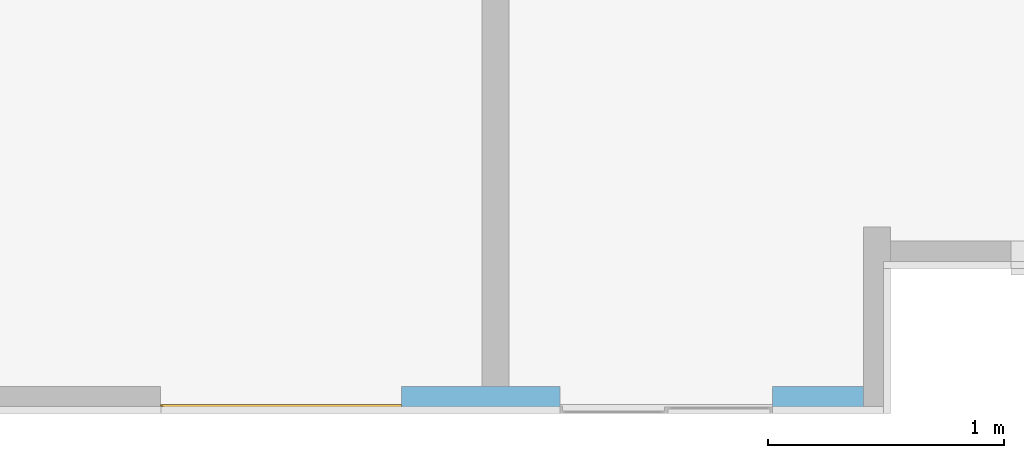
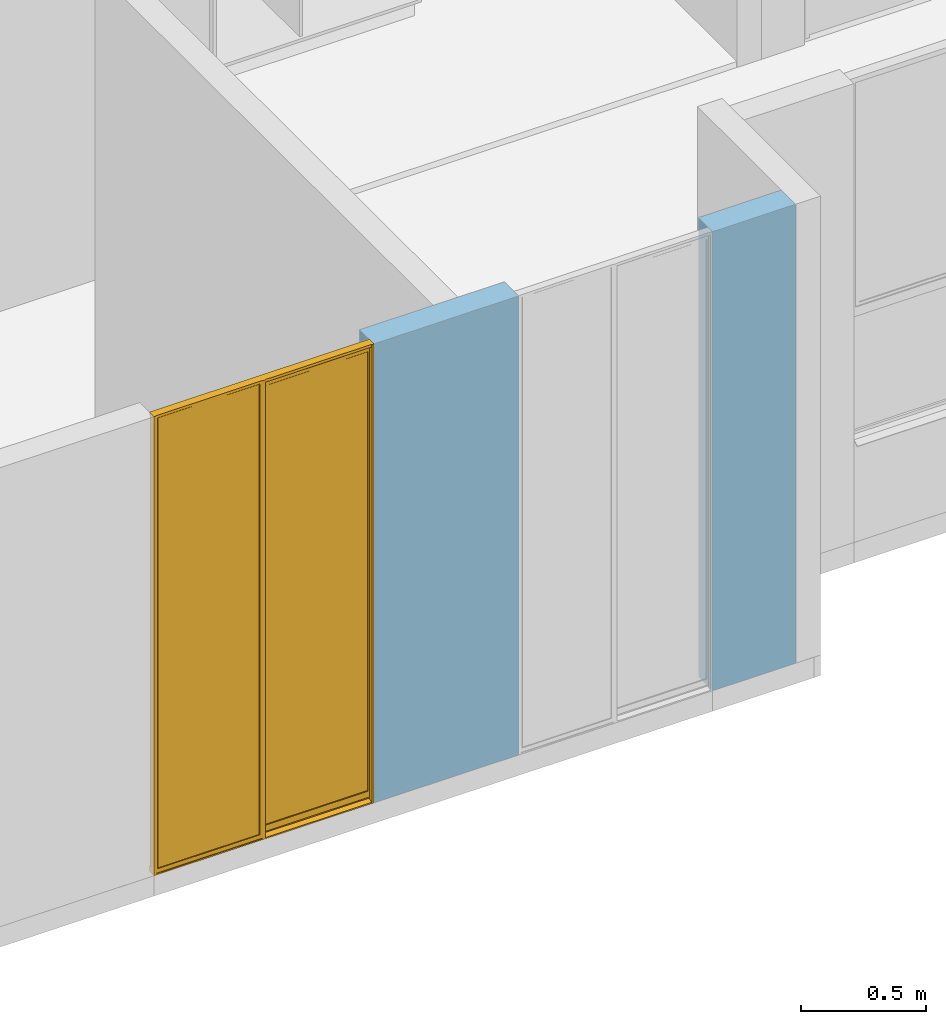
# One storey, part 5 of 47: 1 window, 2 openings, plus 1 element that does not belong to this part.
"""IFC4 building model written with IfcOpenShell, lengths in metres."""

from ifc_helpers import new_model, entity, si_unit, converted_unit, derived_unit, direction, frame, origin, place, context, subcontext, project, spatial, indexed_curve, outline, extrude, polygons, source, transform, mapped, material, constituent, constituent_set, type_object, type_shapes, element, fill, save


model = new_model("IFC4")

# Units and contexts
model_context = context("Model", 3, precision=1e-05, world=origin(), true_north=direction((6.123031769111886e-17, 1.0)))
body_context = subcontext(model_context, "Body", "Model", "MODEL_VIEW")
ifc_project = project(units=[si_unit("LENGTHUNIT", "METRE"), si_unit("AREAUNIT", "SQUARE_METRE"), si_unit("VOLUMEUNIT", "CUBIC_METRE"), converted_unit("PLANEANGLEUNIT", "DEGREE", entity("IfcRatioMeasure", 0.017453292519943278), si_unit("PLANEANGLEUNIT", "RADIAN"), dimensions=[0, 0, 0, 0, 0, 0, 0]), si_unit("MASSUNIT", "GRAM", prefix="KILO"), derived_unit("MASSDENSITYUNIT", [(si_unit("MASSUNIT", "GRAM", prefix="KILO"), 1), (si_unit("LENGTHUNIT", "METRE"), -3)]), derived_unit("IONCONCENTRATIONUNIT", [(si_unit("MASSUNIT", "GRAM", prefix="KILO"), 1), (si_unit("LENGTHUNIT", "METRE"), -3)]), derived_unit("MOMENTOFINERTIAUNIT", [(si_unit("LENGTHUNIT", "METRE"), 4)]), si_unit("TIMEUNIT", "SECOND"), si_unit("FREQUENCYUNIT", "HERTZ"), si_unit("THERMODYNAMICTEMPERATUREUNIT", "DEGREE_CELSIUS"), derived_unit("THERMALTRANSMITTANCEUNIT", [(si_unit("MASSUNIT", "GRAM", prefix="KILO"), 1), (si_unit("THERMODYNAMICTEMPERATUREUNIT", "KELVIN"), -1), (si_unit("TIMEUNIT", "SECOND"), -3)]), derived_unit("THERMALCONDUCTANCEUNIT", [(si_unit("MASSUNIT", "GRAM", prefix="KILO"), 1), (si_unit("THERMODYNAMICTEMPERATUREUNIT", "KELVIN"), -1), (si_unit("TIMEUNIT", "SECOND"), -3), (si_unit("LENGTHUNIT", "METRE"), 1)]), derived_unit("VOLUMETRICFLOWRATEUNIT", [(si_unit("LENGTHUNIT", "METRE"), 3), (si_unit("TIMEUNIT", "SECOND"), -1)]), derived_unit("MASSFLOWRATEUNIT", [(si_unit("MASSUNIT", "GRAM", prefix="KILO"), 1), (si_unit("TIMEUNIT", "SECOND"), -1)]), derived_unit("ROTATIONALFREQUENCYUNIT", [(si_unit("TIMEUNIT", "SECOND"), -1)]), si_unit("ELECTRICCURRENTUNIT", "AMPERE"), si_unit("ELECTRICVOLTAGEUNIT", "VOLT"), si_unit("POWERUNIT", "WATT"), si_unit("FORCEUNIT", "NEWTON", prefix="KILO"), si_unit("ILLUMINANCEUNIT", "LUX"), si_unit("LUMINOUSFLUXUNIT", "LUMEN"), si_unit("LUMINOUSINTENSITYUNIT", "CANDELA"), derived_unit("USERDEFINED", [(si_unit("MASSUNIT", "GRAM", prefix="KILO"), -1), (si_unit("LENGTHUNIT", "METRE"), -2), (si_unit("TIMEUNIT", "SECOND"), 3), (si_unit("LUMINOUSFLUXUNIT", "LUMEN"), 1)]), derived_unit("USERDEFINED", [(si_unit("MASSUNIT", "GRAM", prefix="KILO"), 1), (si_unit("TIMEUNIT", "SECOND"), -3), (si_unit("LENGTHUNIT", "METRE"), 3), (si_unit("ELECTRICCURRENTUNIT", "AMPERE"), -2)]), derived_unit("SOUNDPOWERUNIT", [(si_unit("MASSUNIT", "GRAM", prefix="KILO"), 1), (si_unit("TIMEUNIT", "SECOND"), -3), (si_unit("LENGTHUNIT", "METRE"), 2)]), derived_unit("SOUNDPRESSUREUNIT", [(si_unit("MASSUNIT", "GRAM", prefix="KILO"), 1), (si_unit("LENGTHUNIT", "METRE"), -1), (si_unit("TIMEUNIT", "SECOND"), -2)]), derived_unit("LINEARVELOCITYUNIT", [(si_unit("LENGTHUNIT", "METRE"), 1), (si_unit("TIMEUNIT", "SECOND"), -1)]), si_unit("PRESSUREUNIT", "PASCAL"), derived_unit("USERDEFINED", [(si_unit("MASSUNIT", "GRAM", prefix="KILO"), 1), (si_unit("LENGTHUNIT", "METRE"), -2), (si_unit("TIMEUNIT", "SECOND"), -2)]), derived_unit("LINEARFORCEUNIT", [(si_unit("MASSUNIT", "GRAM", prefix="KILO"), 1), (si_unit("TIMEUNIT", "SECOND"), -2)]), derived_unit("PLANARFORCEUNIT", [(si_unit("MASSUNIT", "GRAM", prefix="KILO"), 1), (si_unit("LENGTHUNIT", "METRE"), -1), (si_unit("TIMEUNIT", "SECOND"), -2)]), derived_unit("SPECIFICHEATCAPACITYUNIT", [(si_unit("THERMODYNAMICTEMPERATUREUNIT", "KELVIN"), -1), (si_unit("LENGTHUNIT", "METRE"), 2), (si_unit("TIMEUNIT", "SECOND"), -2)]), derived_unit("HEATINGVALUEUNIT", [(si_unit("LENGTHUNIT", "METRE"), 2), (si_unit("TIMEUNIT", "SECOND"), -2)]), derived_unit("VAPORPERMEABILITYUNIT", [(si_unit("LENGTHUNIT", "METRE"), -1), (si_unit("TIMEUNIT", "SECOND"), 1)]), derived_unit("DYNAMICVISCOSITYUNIT", [(si_unit("MASSUNIT", "GRAM", prefix="KILO"), 1), (si_unit("TIMEUNIT", "SECOND"), -1), (si_unit("LENGTHUNIT", "METRE"), -1)]), derived_unit("THERMALEXPANSIONCOEFFICIENTUNIT", [(si_unit("THERMODYNAMICTEMPERATUREUNIT", "KELVIN"), -1)]), derived_unit("MODULUSOFELASTICITYUNIT", [(si_unit("MASSUNIT", "GRAM", prefix="KILO"), 1), (si_unit("LENGTHUNIT", "METRE"), -1), (si_unit("TIMEUNIT", "SECOND"), -2)]), derived_unit("ISOTHERMALMOISTURECAPACITYUNIT", [(si_unit("LENGTHUNIT", "METRE"), 3), (si_unit("MASSUNIT", "GRAM", prefix="KILO"), -1)]), derived_unit("MOISTUREDIFFUSIVITYUNIT", [(si_unit("TIMEUNIT", "SECOND"), -1), (si_unit("LENGTHUNIT", "METRE"), 2)])], contexts=[model_context])

# Site, building, storey
site_placement = place(None, origin())
site = spatial("IfcSite", under=ifc_project, at=site_placement, Name="Default", CompositionType="ELEMENT")
building_placement = place(site_placement, origin())
building = spatial("IfcBuilding", under=site, at=building_placement, CompositionType="ELEMENT")
storey_placement = place(building_placement, frame((0.0, 0.0, 11.750000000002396)))
storey = spatial("IfcBuildingStorey", under=building, at=storey_placement, Name="Nivel 6", CompositionType="ELEMENT", Elevation=11.750000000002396)

# Wall, openings, window
ifc_material_1 = material(Name="Ladrillo claro (Aire)", Category="Materials")
wall_type = type_object("IfcWallType", Name="Basic Wall:B2010 - 0.115m - Muro exterior en mampostería - Ladrillo", PredefinedType="STANDARD")
wall_placement = place(storey_placement, frame((6.067499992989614, -12.812500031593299, 0.0), z_axis=(0.0, 0.0, 1.0), x_axis=(-1.0, 0.0, 0.0)))
wall = element("IfcWall", 1, at=wall_placement, inside=storey, type_object=wall_type, material=ifc_material_1, Name="Basic Wall:B2010 - 0.115m - Muro exterior en mampostería - Ladrillo", ObjectType="Basic Wall:B2010 - 0.115m - Muro exterior en mampostería - Ladrillo", PredefinedType="NOTDEFINED", context=body_context, shape_type="Tessellation", body=[
    polygons([(6.500625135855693e-16, -0.057499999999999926, 2.250000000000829), (6.500625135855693e-16, -0.057499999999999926, -2.1657342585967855e-15), (0.38500000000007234, -0.057499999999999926, -2.1657342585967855e-15), (0.38500000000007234, -0.057499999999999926, 2.250000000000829), (2.177286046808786e-15, 0.057499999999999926, -2.1657342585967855e-15), (0.38500000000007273, 0.057499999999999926, -2.1657342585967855e-15), (0.38500000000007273, 0.057499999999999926, 2.250000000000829), (2.177286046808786e-15, 0.057499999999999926, 2.250000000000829)], [[[1, 2, 3, 4]], [[2, 5, 6, 3]], [[4, 3, 6, 7]], [[2, 1, 8, 5]], [[8, 1, 4, 7]], [[5, 8, 7, 6]]], closed=True),
    polygons([(1.9557999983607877, 0.057499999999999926, 2.250000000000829), (1.9557999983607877, 0.057499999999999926, -2.1657342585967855e-15), (1.2850000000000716, 0.057499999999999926, -2.1657342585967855e-15), (1.2850000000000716, 0.057499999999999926, 2.250000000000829), (1.9557999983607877, -0.057499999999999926, 2.250000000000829), (1.2850000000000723, -0.057499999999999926, 2.250000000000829), (1.4999999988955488, -0.057499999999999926, 2.2500000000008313), (1.6149999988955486, -0.057499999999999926, 2.2500000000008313), (1.9557999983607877, -0.057499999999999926, -2.1657342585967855e-15), (1.2850000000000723, -0.057499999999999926, -2.1657342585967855e-15), (1.6149999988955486, -0.057499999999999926, -2.1657342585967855e-15), (1.4999999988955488, -0.057499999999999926, -2.1657342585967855e-15)], [[[1, 2, 3, 4]], [[5, 1, 4, 6, 7, 8]], [[5, 9, 2, 1]], [[10, 6, 4, 3]], [[2, 9, 11, 12, 10, 3]], [[9, 5, 8, 7, 6, 10, 12, 11]]], closed=True),
])
opening_1_placement = place(wall_placement, frame((2.975799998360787, 0.05749999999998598, 0.0)))
opening_1 = element("IfcOpeningElement", 2, at=opening_1_placement, cuts=wall, Name="B2020 - Ventana corrediza 2C - Aluminio + Vidrio:B2020 - 1.02m x 2.25m - Ventana corrediza 2C - Aluminio + Vidrio:1", PredefinedType="OPENING", context=body_context, shape_type="SweptSolid", body=[
    extrude(outline(indexed_curve([(0.0, -7.394753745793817e-30), (2.2499999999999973, -7.394753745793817e-30), (2.249999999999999, 1.0199999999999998), (0.0, 1.0199999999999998), (0.0, -7.394753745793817e-30)], self_intersect=False)), frame((0.0, 0.0, 0.0), z_axis=(0.0, -1.0, 0.0), x_axis=(0.0, 0.0, 1.0)), (0.0, 0.0, 1.0), 0.115),
])
opening_2_placement = place(wall_placement, frame((1.2850000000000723, 0.05749999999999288, 0.0)))
element("IfcOpeningElement", 3, at=opening_2_placement, cuts=wall, Name="B2020 - Ventana corrediza 2C - Aluminio + Vidrio:B2020 - 0.90m x 2.25m - Ventana corrediza 2C - Aluminio + Vidrio:1", PredefinedType="OPENING", context=body_context, shape_type="SweptSolid", body=[
    extrude(outline(indexed_curve([(0.0, 1.353583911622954e-16), (2.2499999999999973, 1.353583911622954e-16), (2.249999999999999, 0.9), (0.0, 0.9), (0.0, 1.353583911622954e-16)], self_intersect=False)), frame((0.0, 0.0, 0.0), z_axis=(0.0, -1.0, 0.0), x_axis=(0.0, 0.0, 1.0)), (0.0, 0.0, 1.0), 0.115),
])
ifc_material_2 = material(Name="Vidrio", Category="Materials")
ifc_constituent_1 = constituent(ifc_material_2, Name="Vidrio", Category="Materials")
ifc_material_3 = material(Name="<Unnamed>")
ifc_constituent_2 = constituent(ifc_material_3, Name="<Unnamed>")
ifc_constituent_set_1 = constituent_set(constituents=[ifc_constituent_1, ifc_constituent_2])
ifc_constituent_3 = constituent(ifc_material_2, Name="Vidrio", Category="Materials")
ifc_constituent_4 = constituent(ifc_material_3, Name="<Unnamed>")
ifc_constituent_set_2 = constituent_set(constituents=[ifc_constituent_3, ifc_constituent_4])
window_type = type_object("IfcWindowType", Name="B2020 - Ventana corrediza 2C - Aluminio + Vidrio:B2020 - 1.02m x 2.25m - Ventana corrediza 2C - Aluminio + Vidrio", PartitioningType="NOTDEFINED", PredefinedType="WINDOW", material=ifc_constituent_set_2)
shared_shape = source(origin(), body_context, "Body", "Tessellation", [
    polygons([(0.5301871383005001, 0.11311505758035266, 0.028641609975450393), (1.0000323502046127, 0.11311505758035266, 0.028641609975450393), (1.0000323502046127, 0.10801372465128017, 0.028641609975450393), (0.5301871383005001, 0.10801372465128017, 0.028641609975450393), (0.5301871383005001, 0.11311505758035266, 2.2347073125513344), (0.5301871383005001, 0.10801372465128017, 2.2347073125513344), (1.0000323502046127, 0.10801372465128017, 2.2347073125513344), (1.0000323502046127, 0.11311505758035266, 2.2347073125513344)], [[[1, 2, 3, 4]], [[5, 1, 4, 6]], [[6, 4, 3, 7]], [[7, 3, 2, 8]], [[8, 2, 1, 5]], [[5, 6, 7, 8]]], closed=True),
    polygons([(0.018846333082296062, 0.0962952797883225, 0.054189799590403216), (0.48827105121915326, 0.0962952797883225, 0.054189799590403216), (0.48827105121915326, 0.0919992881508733, 0.054189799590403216), (0.018846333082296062, 0.0919992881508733, 0.054189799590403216), (0.018846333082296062, 0.0962952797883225, 2.2043993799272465), (0.018846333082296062, 0.0919992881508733, 2.2043993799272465), (0.48827105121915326, 0.0919992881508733, 2.2043993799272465), (0.48827105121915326, 0.0962952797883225, 2.2043993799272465)], [[[1, 2, 3, 4]], [[5, 1, 4, 6]], [[6, 4, 3, 7]], [[7, 3, 2, 8]], [[8, 2, 1, 5]], [[5, 6, 7, 8]]], closed=True),
    polygons([(1.6039969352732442e-14, 0.08248628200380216, 0.020380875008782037), (1.6039969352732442e-14, 0.07981389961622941, 0.020380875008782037), (1.6039969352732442e-14, 0.07981389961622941, 0.025674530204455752), (1.6039969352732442e-14, 0.08106389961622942, 0.025674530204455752), (1.6039969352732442e-14, 0.08106389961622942, 0.02163087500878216), (1.6039969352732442e-14, 0.08373628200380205, 0.02163087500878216), (1.6039969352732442e-14, 0.08373628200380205, 0.017447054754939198), (1.6039969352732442e-14, 0.08932238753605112, 0.017447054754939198), (1.6039969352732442e-14, 0.08932238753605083, 2.24863686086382), (1.6039969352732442e-14, 0.0810593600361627, 2.24863686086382), (1.6039969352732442e-14, 0.0810593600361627, 2.2365872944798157), (1.6039969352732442e-14, 0.07969622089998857, 2.2365872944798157), (1.5972290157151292e-14, 0.07969622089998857, 2.2499999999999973), (1.6039969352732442e-14, 0.11748628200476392, 2.2499999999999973), (1.6039969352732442e-14, 0.11748628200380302, -2.5718094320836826e-15), (1.6039969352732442e-14, 0.08248628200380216, -2.5718094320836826e-15), (1.0200000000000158, 0.08248628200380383, 0.020380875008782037), (1.0200000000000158, 0.08248628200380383, -2.5718094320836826e-15), (1.0200000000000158, 0.11748628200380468, -2.5718094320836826e-15), (0.5166454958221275, 0.11748628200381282, 2.2499999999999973), (0.5166454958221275, 0.11748628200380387, 0.006176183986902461), (1.0100000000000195, 0.11748628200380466, 0.006176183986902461), (1.0100000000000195, 0.11748628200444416, 2.2499999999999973), (1.0200000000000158, 0.11748628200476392, 2.2499999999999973), (0.009897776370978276, 0.11748628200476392, 2.2499999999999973), (0.009897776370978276, 0.11748628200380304, 0.006176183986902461), (0.5033545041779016, 0.11748628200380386, 0.006176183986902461), (0.5033545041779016, 0.11748628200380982, 2.2499999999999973), (0.016298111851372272, 0.08932238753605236, 2.2069861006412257), (0.5033545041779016, 0.08932238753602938, 2.2069861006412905), (0.5033545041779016, 0.08932238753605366, 2.2043993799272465), (0.490819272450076, 0.08932238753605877, 2.2043993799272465), (0.4908192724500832, 0.08932238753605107, 0.0519155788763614), (0.01629811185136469, 0.0893223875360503, 0.0519155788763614), (0.01629811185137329, 0.08932238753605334, 2.237270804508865), (0.01629811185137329, 0.08932238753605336, 2.24863686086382), (0.003762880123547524, 0.08932238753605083, 0.017447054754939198), (0.003762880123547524, 0.08932238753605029, 0.02163087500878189), (0.5033545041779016, 0.08932238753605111, 0.021630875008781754), (0.5033545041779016, 0.08932238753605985, 0.017447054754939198), (0.5180471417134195, 0.08932238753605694, 0.017447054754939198), (0.5180471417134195, 0.08932238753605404, 2.24863686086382), (0.5033545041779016, 0.08932238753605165, 2.24863686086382), (0.5033545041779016, 0.0893223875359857, 2.237270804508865), (1.0200000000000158, 0.0837362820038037, 0.017447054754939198), (1.0200000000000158, 0.08548628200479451, 0.017447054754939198), (1.0100000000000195, 0.08548628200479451, 0.017447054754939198), (1.0100000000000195, 0.09284764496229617, 0.017447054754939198), (0.5180471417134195, 0.09284764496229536, 0.017447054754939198), (0.5033545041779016, 0.09284764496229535, 0.017447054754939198), (0.003762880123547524, 0.09284764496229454, 0.017447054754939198), (1.0200000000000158, 0.0837362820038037, 0.02163087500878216), (1.0200000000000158, 0.08106389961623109, 0.02163087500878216), (1.0200000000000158, 0.08106389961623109, 0.025674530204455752), (1.0200000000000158, 0.07981389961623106, 0.025674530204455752), (1.0200000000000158, 0.07981389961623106, 0.020380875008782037), (0.018842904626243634, 0.09629339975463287, 0.054191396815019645), (0.4882772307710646, 0.09629080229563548, 0.054191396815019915), (0.4908192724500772, 0.09897218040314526, 0.051915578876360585), (0.016298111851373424, 0.0989721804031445, 0.051915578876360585), (0.016298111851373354, 0.09897218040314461, 2.237270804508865), (0.016298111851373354, 0.09897218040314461, 2.24863686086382), (0.01884633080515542, 0.0962732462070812, 2.24863686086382), (0.01884631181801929, 0.0962733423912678, 2.237270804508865), (0.490819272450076, 0.09897218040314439, 2.2043993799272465), (0.5033545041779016, 0.09897218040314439, 2.2043993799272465), (0.5033545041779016, 0.0989721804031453, 0.02163087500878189), (0.009897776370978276, 0.09897218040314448, 0.021630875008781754), (0.009897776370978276, 0.09897218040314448, 2.24863686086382), (0.5033545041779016, 0.0989721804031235, 2.237270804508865), (0.5033545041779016, 0.09897218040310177, 2.2069861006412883), (0.016298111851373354, 0.09897218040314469, 2.206986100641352), (0.48827105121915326, 0.09628607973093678, 2.2043993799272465), (0.018840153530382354, 0.09200376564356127, 0.05419139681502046), (0.488274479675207, 0.0920011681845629, 0.05419139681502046), (0.018846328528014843, 0.09202132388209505, 2.24863686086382), (0.018846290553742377, 0.09202124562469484, 2.237270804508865), (0.48827105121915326, 0.09200839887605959, 2.20439928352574), (0.5180471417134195, 0.09284764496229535, 0.011279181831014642), (0.5180471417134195, 0.0961232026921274, 0.010600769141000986), (0.5180471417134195, 0.09612320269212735, 0.014402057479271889), (0.5180471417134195, 0.10582811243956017, 0.014402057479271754), (0.5180471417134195, 0.1058281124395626, 2.24863686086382), (0.5033545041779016, 0.0919994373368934, 2.2043993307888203), (0.003762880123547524, 0.09897218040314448, 0.021630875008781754), (0.003762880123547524, 0.09284764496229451, 0.011279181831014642), (0.003762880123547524, 0.0989721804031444, 0.010010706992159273), (0.009897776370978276, 0.0989721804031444, 0.010010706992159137), (0.009897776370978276, 0.1153006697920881, 2.2499999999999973), (0.009897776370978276, 0.11530066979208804, 2.2369062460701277), (0.009897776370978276, 0.11310173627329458, 2.2347073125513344), (0.009897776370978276, 0.10802704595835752, 2.2347073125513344), (0.009897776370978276, 0.10582811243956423, 2.2369062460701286), (0.009897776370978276, 0.10582811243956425, 2.24863686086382), (1.0200000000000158, 0.07969622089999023, 2.2499999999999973), (1.0200000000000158, 0.07969622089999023, 2.2365872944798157), (1.0200000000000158, 0.08105936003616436, 2.2365872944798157), (1.0200000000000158, 0.08105936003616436, 2.24863686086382), (1.0200000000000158, 0.08548628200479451, 2.24863686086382), (1.0100000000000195, 0.08548628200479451, 2.24863686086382), (1.0100000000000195, 0.09284764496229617, 0.011279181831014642), (1.0100000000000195, 0.10582811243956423, 2.24863686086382), (1.0100000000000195, 0.10582811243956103, 0.014402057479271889), (1.0100000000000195, 0.09612320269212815, 0.014402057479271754), (1.0100000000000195, 0.09612320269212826, 0.010600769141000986), (0.5166454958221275, 0.11530066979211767, 0.006628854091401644), (0.5166454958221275, 0.11530066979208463, 2.2499999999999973), (1.0100000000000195, 0.11530066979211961, 0.0066288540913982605), (1.0100000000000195, 0.11530066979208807, 2.2499999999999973), (0.5033545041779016, 0.11530066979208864, 2.2499999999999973), (0.5033545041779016, 0.11530066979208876, 2.2369062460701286), (0.5276389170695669, 0.11530066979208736, 0.02682441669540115), (0.5276389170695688, 0.11530066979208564, 2.236906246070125), (0.5301871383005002, 0.1131150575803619, 2.234713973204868), (0.5301871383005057, 0.1131150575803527, 0.028641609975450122), (1.0000323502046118, 0.11311505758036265, 0.028641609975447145), (1.0000323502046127, 0.11311505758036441, 2.2347139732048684), (1.0025805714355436, 0.11530066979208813, 2.236906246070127), (1.002580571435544, 0.1153006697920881, 0.02682441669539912), (1.0000323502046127, 0.10801372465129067, 0.02864160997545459), (0.5301871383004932, 0.10801372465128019, 0.028641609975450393), (0.5276389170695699, 0.10582811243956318, 0.02682441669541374), (1.002580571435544, 0.10582811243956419, 0.026824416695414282), (0.5276389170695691, 0.10582811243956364, 2.2369062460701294), (1.002580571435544, 0.10582811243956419, 2.23690624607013), (1.000031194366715, 0.10801638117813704, 2.2347113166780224), (0.5301882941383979, 0.1080163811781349, 2.234711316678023), (0.5033545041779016, 0.0962951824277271, 2.204399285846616), (0.018846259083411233, 0.09627365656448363, 2.204388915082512), (0.0188444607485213, 0.09201660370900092, 2.2043931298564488), (0.5033545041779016, 0.10582811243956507, 2.24863686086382), (0.5033545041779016, 0.10802704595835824, 2.2347073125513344), (0.5033545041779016, 0.10582811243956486, 2.2369062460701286), (0.5033545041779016, 0.11310173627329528, 2.2347073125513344), (0.5033545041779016, 0.09284764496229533, 0.011279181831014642)], [[[1, 2, 3, 4, 5, 6, 7, 8, 9, 10, 11, 12, 13, 14, 15, 16]], [[17, 1, 16, 18]], [[16, 15, 19, 18]], [[20, 21, 22, 23, 24, 19, 15, 14, 25, 26, 27, 28]], [[35, 36, 9, 8, 37, 38, 39, 40, 41, 42, 43, 44], [29, 30, 31, 32, 33, 34]], [[45, 46, 47, 48, 49, 41, 40, 50, 51, 37, 8, 7]], [[45, 7, 6, 52]], [[52, 6, 5, 53]], [[53, 5, 4, 54]], [[54, 4, 3, 55]], [[55, 3, 2, 56]], [[56, 2, 1, 17]], [[57, 58, 59, 60]], [[61, 62, 63, 64]], [[60, 59, 65, 66, 67, 68, 69, 62, 61, 70, 71, 72]], [[65, 59, 58, 73]], [[74, 75, 58, 57]], [[64, 63, 76, 77]], [[58, 75, 78, 73]], [[34, 33, 75, 74]], [[77, 76, 36, 35]], [[78, 75, 33, 32]], [[49, 79, 80, 81, 82, 83, 42, 41]], [[84, 31, 30]], [[39, 38, 85, 68, 67]], [[85, 38, 37, 51, 86, 87]], [[68, 85, 87, 88]], [[25, 89, 90, 91, 92, 93, 94, 69, 68, 88, 26]], [[17, 18, 19, 24, 95, 96, 97, 98, 99, 46, 45, 52, 53, 54, 55, 56]], [[46, 99, 100, 47]], [[49, 48, 101, 79]], [[47, 100, 102, 103, 104, 105, 101, 48]], [[79, 101, 105, 80]], [[106, 21, 20, 107]], [[23, 22, 108, 109]], [[110, 111, 90, 89]], [[80, 105, 104, 81]], [[112, 113, 114, 115]], [[116, 117, 118, 119]], [[119, 112, 115, 116]], [[120, 121, 122, 123]], [[103, 102, 83, 82], [122, 124, 125, 123]], [[123, 125, 126, 120]], [[121, 127, 124, 122]], [[81, 104, 103, 82]], [[120, 126, 117, 116]], [[116, 115, 121, 120]], [[115, 114, 127, 121]], [[13, 95, 24, 23, 109, 107, 20, 28, 110, 89, 25, 14]], [[72, 71, 128, 73, 129]], [[129, 73, 78, 130]], [[130, 78, 84, 30, 29]], [[77, 35, 44, 70, 61, 64]], [[31, 84, 78, 32]], [[97, 11, 10, 98]], [[96, 12, 11, 97]], [[95, 13, 12, 96]], [[118, 117, 114, 113]], [[127, 114, 117, 126]], [[124, 127, 126, 125]], [[10, 9, 36, 76, 63, 62, 69, 94, 131, 43, 42, 83, 102, 100, 99, 98]], [[132, 133, 93, 92]], [[134, 132, 92, 91]], [[111, 134, 91, 90]], [[73, 128, 66, 65]], [[133, 131, 94, 93]], [[109, 108, 106, 107], [112, 119, 118, 113]], [[106, 108, 22, 21]], [[27, 26, 88, 87, 86, 135]], [[135, 86, 51, 50]], [[27, 135, 50, 40, 39, 67, 66, 128, 71, 70, 44, 43, 131, 133, 132, 134, 111, 110, 28]], [[74, 130, 29, 34]], [[57, 129, 130, 74]], [[60, 72, 129, 57]]], closed=True),
])
type_shapes(window_type, [shared_shape])
window_placement = place(opening_1_placement, frame((-1.020000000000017, -0.11748628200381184, 0.0)))
window = element("IfcWindow", 4, at=window_placement, inside=storey, type_object=window_type, material=ifc_constituent_set_1, Name="B2020 - Ventana corrediza 2C - Aluminio + Vidrio:B2020 - 1.02m x 2.25m - Ventana corrediza 2C - Aluminio + Vidrio", ObjectType="B2020 - Ventana corrediza 2C - Aluminio + Vidrio:B2020 - 1.02m x 2.25m - Ventana corrediza 2C - Aluminio + Vidrio", OverallHeight=2.2499999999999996, OverallWidth=1.0199999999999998, PartitioningType="NOTDEFINED", PredefinedType="WINDOW", context=body_context, shape_type="MappedRepresentation", body=[
    mapped(shared_shape, transform((0.0, 0.0, 0.0), scale=1.0)),
])
fill(opening_1, window)

save(model, "model.ifc")
